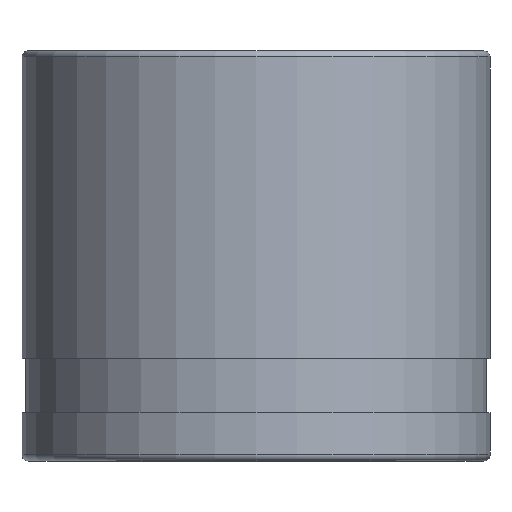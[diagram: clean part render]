
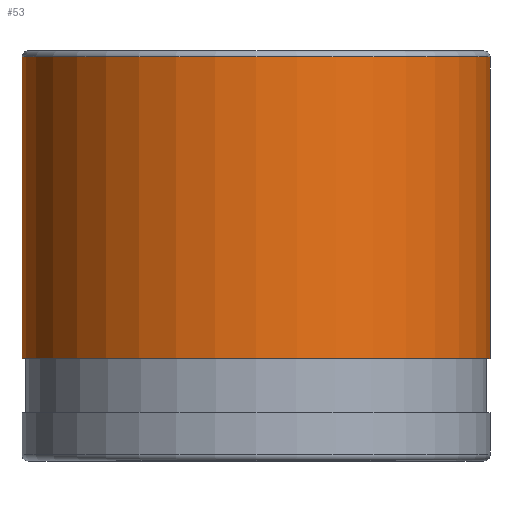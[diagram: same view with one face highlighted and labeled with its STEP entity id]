
A CAD part, top view. The second image highlights one B-rep face of the part: STEP entity #53.
In plain terms, the highlighted cylindrical face has radius 19.4 mm (diameter 38.8 mm), a full revolution.
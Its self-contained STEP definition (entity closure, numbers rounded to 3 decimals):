
#53=ADVANCED_FACE('',(#143,#145),#147,.T.);
#143=FACE_OUTER_BOUND('',#144,.T.);
#144=EDGE_LOOP('',(#242));
#145=FACE_OUTER_BOUND('',#146,.T.);
#146=EDGE_LOOP('',(#243));
#147=CYLINDRICAL_SURFACE('',#148,19.4);
#148=AXIS2_PLACEMENT_3D('',#149,#150,#151);
#149=CARTESIAN_POINT('',(0.,0.,0.));
#150=DIRECTION('',(0.,1.,0.));
#151=DIRECTION('',(-1.,0.,0.));
#242=ORIENTED_EDGE('',*,*,#281,.F.);
#243=ORIENTED_EDGE('',*,*,#282,.T.);
#281=EDGE_CURVE('',#320,#320,#321,.T.);
#282=EDGE_CURVE('',#322,#322,#323,.T.);
#320=VERTEX_POINT('',#413);
#321=CIRCLE('',#414,19.4);
#322=VERTEX_POINT('',#418);
#323=CIRCLE('',#419,19.4);
#413=CARTESIAN_POINT('',(-19.4,33.5,0.));
#414=AXIS2_PLACEMENT_3D('',#415,#416,#417);
#415=CARTESIAN_POINT('',(0.,33.5,0.));
#416=DIRECTION('',(0.,1.,0.));
#417=DIRECTION('',(-1.,0.,0.));
#418=CARTESIAN_POINT('',(-19.4,8.5,0.));
#419=AXIS2_PLACEMENT_3D('',#420,#421,#422);
#420=CARTESIAN_POINT('',(0.,8.5,0.));
#421=DIRECTION('',(0.,1.,0.));
#422=DIRECTION('',(-1.,0.,0.));
